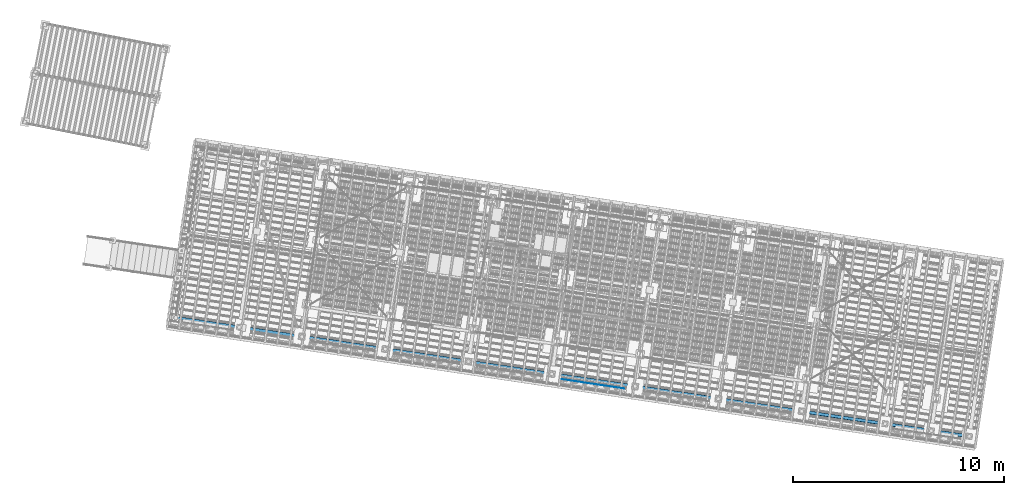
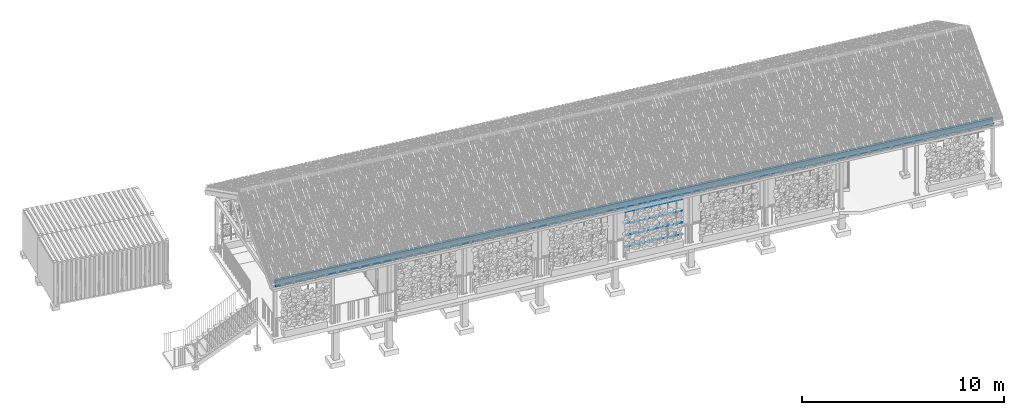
# One storey, part 63 of 131: 5 members, 2 beams, 3 elements without a shape of their own.
"""IFC4 building model written with IfcOpenShell, lengths in metres."""

import ifcopenshell
import ifcopenshell.guid

model = None  # the IFC model being written
_history = None  # IfcOwnerHistory: only IFC2X3 demands one
_inside = {}  # id of a spatial element -> (the spatial element, [elements in it])
_under = {}  # id of a project, library or spatial element -> (it, [spatial elements below it])
_declared = {}  # id of a project -> (the project, [libraries it declares])
_typed = {}  # id of a type object -> (the type object, [elements of that type])
_made_of = {}  # id of a material, layer set ... -> (it, [elements and type objects made of it])


def new_model(schema):
    """Start an empty IFC model of exactly this schema.

    Asked for "IFC4X3", IfcOpenShell would pick the latest addendum, in which some entities
    have other attributes; the version numbers below select the first issue.
    IFC2X3 requires an IfcOwnerHistory on every rooted entity: one is made here for all.
    """
    global model, _history
    if schema == "IFC4X3":
        model = ifcopenshell.file(schema_version=(4, 3, 0, 0))
    else:
        model = ifcopenshell.file(schema=schema)
    _inside.clear()
    _under.clear()
    _declared.clear()
    _typed.clear()
    _made_of.clear()
    _history = None
    if model.schema == "IFC2X3":
        org = make("IfcOrganization", Name="unknown")
        user = make(
            "IfcPersonAndOrganization",
            ThePerson=make("IfcPerson", FamilyName="unknown"),
            TheOrganization=org,
        )
        app = make(
            "IfcApplication",
            ApplicationDeveloper=org,
            Version="unknown",
            ApplicationFullName="unknown",
            ApplicationIdentifier="unknown",
        )
        _history = make(
            "IfcOwnerHistory",
            OwningUser=user,
            OwningApplication=app,
            ChangeAction="ADDED",
            CreationDate=0,
        )
    return model


def make(cls, **values):
    """One entity of the class cls with the attributes given. An attribute that is None is left unset."""
    return model.create_entity(
        cls, **{name: value for name, value in values.items() if value is not None}
    )


def rooted(cls, **values):
    """An entity with a GlobalId (a new one), such as an element, a storey or a relation."""
    return make(cls, GlobalId=ifcopenshell.guid.new(), OwnerHistory=_history, **values)


def si_unit(unit_type, name, prefix=None):
    """IfcSIUnit, for example si_unit("LENGTHUNIT", "METRE", prefix="MILLI")."""
    return make("IfcSIUnit", UnitType=unit_type, Prefix=prefix, Name=name)


def assignment(units):
    """IfcUnitAssignment: the units of a project."""
    return None if units is None else make("IfcUnitAssignment", Units=units)


def point(xyz):
    """IfcCartesianPoint."""
    return None if xyz is None else make("IfcCartesianPoint", Coordinates=xyz)


def direction(xyz):
    """IfcDirection."""
    return None if xyz is None else make("IfcDirection", DirectionRatios=xyz)


def frame(location, z_axis=None, x_axis=None):
    """IfcAxis2Placement3D, a coordinate frame: its origin and axes. An axis left out is left unset."""
    return make(
        "IfcAxis2Placement3D",
        Location=point(location),
        Axis=direction(z_axis),
        RefDirection=direction(x_axis),
    )


def origin_with_axes():
    """The frame at (0, 0, 0) with the z axis (0, 0, 1) and the x axis (1, 0, 0) written out."""
    return frame((0.0, 0.0, 0.0), z_axis=(0.0, 0.0, 1.0), x_axis=(1.0, 0.0, 0.0))


def place(relative_to, where):
    """IfcLocalPlacement: puts the frame where relative to a parent placement (None: the world)."""
    return make(
        "IfcLocalPlacement", PlacementRelTo=relative_to, RelativePlacement=where
    )


def context(
    kind, dimensions, precision=None, world=None, true_north=None, identifier=None
):
    """IfcGeometricRepresentationContext, for example the 3D "Model" context."""
    return make(
        "IfcGeometricRepresentationContext",
        ContextIdentifier=identifier,
        ContextType=kind,
        CoordinateSpaceDimension=dimensions,
        Precision=precision,
        WorldCoordinateSystem=world,
        TrueNorth=true_north,
    )


def subcontext(parent, identifier, kind, view, scale=None):
    """IfcGeometricRepresentationSubContext, for example "Body" below "Model"."""
    return make(
        "IfcGeometricRepresentationSubContext",
        ContextIdentifier=identifier,
        ContextType=kind,
        ParentContext=parent,
        TargetScale=scale,
        TargetView=view,
    )


def project(units=None, contexts=None):
    """IfcProject with its units and contexts."""
    return rooted(
        "IfcProject",
        Name="project",
        RepresentationContexts=contexts,
        UnitsInContext=assignment(units),
    )


def spatial(cls, under=None, at=None, **own):
    """A site, building, storey or space (cls), placed at a placement, below another one or the project."""
    s = rooted(cls, ObjectPlacement=at, **own)
    if under is not None:
        _under.setdefault(under.id(), (under, []))[1].append(s)
    return s


def profile(cls, at=None, kind="AREA", **sizes):
    """A parametric profile (cls). Its sizes go by their IFC names, for example OverallWidth=200.0."""
    return make(cls, ProfileType=kind, Position=at, **sizes)


def rectangle(**sizes):
    """IfcRectangleProfileDef."""
    return profile("IfcRectangleProfileDef", **sizes)


def circle(**sizes):
    """IfcCircleProfileDef."""
    return profile("IfcCircleProfileDef", **sizes)


def extrude(swept, where, along, depth):
    """IfcExtrudedAreaSolid: the profile swept, set in the frame where, extruded along a direction by depth."""
    return make(
        "IfcExtrudedAreaSolid",
        SweptArea=swept,
        Position=where,
        ExtrudedDirection=direction(along),
        Depth=depth,
    )


def shape(context_of_items, identifier, shape_type, items):
    """IfcShapeRepresentation: the items that make up one representation, for example the "Body"."""
    return make(
        "IfcShapeRepresentation",
        ContextOfItems=context_of_items,
        RepresentationIdentifier=identifier,
        RepresentationType=shape_type,
        Items=items,
    )


def material(Name=None, Category=None):
    """IfcMaterial."""
    return make("IfcMaterial", Name=Name, Category=Category)


def material_profile(
    of_material, cross_section, Name=None, Category=None, Priority=None
):
    """IfcMaterialProfile: a cross section and its material."""
    return make(
        "IfcMaterialProfile",
        Name=Name,
        Material=of_material,
        Profile=cross_section,
        Priority=Priority,
        Category=Category,
    )


def profile_set(profiles, Name=None, composite=None):
    """IfcMaterialProfileSet."""
    return make(
        "IfcMaterialProfileSet",
        Name=Name,
        MaterialProfiles=profiles,
        CompositeProfile=composite,
    )


def profile_usage(for_profile_set, cardinal=None, extent=None):
    """IfcMaterialProfileSetUsage: how a profile set lies along its element."""
    return make(
        "IfcMaterialProfileSetUsage",
        ForProfileSet=for_profile_set,
        CardinalPoint=cardinal,
        ReferenceExtent=extent,
    )


def made_of(thing, what):
    """Note that an element or type object is made of a material, layer set ...; save() writes the relation."""
    if what is not None:
        _made_of.setdefault(what.id(), (what, []))[1].append(thing)
    return thing


def type_object(cls, material=None, **own):
    """A type object (cls), such as IfcWallType, which elements share."""
    return made_of(rooted(cls, **own), material)


def element(
    cls,
    number,
    at=None,
    inside=None,
    cuts=None,
    type_object=None,
    material=None,
    context=None,
    identifier="Body",
    shape_type=None,
    held_by="IfcProductDefinitionShape",
    body=None,
    shapes=None,
    **own,
):
    """One element of the class cls, such as IfcWall. Its Tag is "e" and its number.

    at: its placement. inside: the storey or other place that contains it. cuts: it is an
    opening in that element (IfcRelVoidsElement). A single representation is given by context,
    identifier, shape_type and body (its items); several are given by shapes. held_by: the class
    of the entity that holds the representations. save() writes the other relations.
    """
    e = rooted(cls, Tag="e%d" % number, ObjectPlacement=at, **own)
    if body is not None:
        shapes = [shape(context, identifier, shape_type, body)]
    if shapes is not None:
        e.Representation = make(held_by, Representations=shapes)
    if inside is not None:
        _inside.setdefault(inside.id(), (inside, []))[1].append(e)
    if cuts is not None:
        rooted(
            "IfcRelVoidsElement", RelatingBuildingElement=cuts, RelatedOpeningElement=e
        )
    if type_object is not None:
        _typed.setdefault(type_object.id(), (type_object, []))[1].append(e)
    return made_of(e, material)


def aggregate(whole, parts):
    """IfcRelAggregates: a whole, such as a stair, and the parts it consists of."""
    return rooted("IfcRelAggregates", RelatingObject=whole, RelatedObjects=parts)


def save(model, path):
    """Write the relations noted so far, then the file.

    IfcRelAggregates (storeys below a building ...), IfcRelContainedInSpatialStructure (elements
    in a storey), IfcRelDefinesByType, IfcRelAssociatesMaterial and IfcRelDeclares: one each for
    every whole, place, type object, material and project.
    """
    for whole, parts in _under.values():
        aggregate(whole, parts)
    for where, things in _inside.values():
        rooted(
            "IfcRelContainedInSpatialStructure",
            RelatedElements=things,
            RelatingStructure=where,
        )
    for kind, things in _typed.values():
        rooted("IfcRelDefinesByType", RelatedObjects=things, RelatingType=kind)
    for what, things in _made_of.values():
        rooted("IfcRelAssociatesMaterial", RelatedObjects=things, RelatingMaterial=what)
    for by, libraries in _declared.values():
        rooted("IfcRelDeclares", RelatingContext=by, RelatedDefinitions=libraries)
    model.write(path)


model = new_model("IFC4")

# Units and contexts
model_context = context("Model", 3, precision=1e-05, world=origin_with_axes(), true_north=direction((0.0, 1.0)))
body_context = subcontext(model_context, "Body", "Model", "MODEL_VIEW")
ifc_project = project(units=[si_unit("VOLUMEUNIT", "CUBIC_METRE"), si_unit("LENGTHUNIT", "METRE"), si_unit("AREAUNIT", "SQUARE_METRE")], contexts=[model_context])

# Site, building, storey
site_placement = place(None, origin_with_axes())
site = spatial("IfcSite", under=ifc_project, at=site_placement, Name="Lares · Rua das Mercês · artigo 4771")
building_placement = place(site_placement, frame((15.0, 9.7, 14.65), z_axis=(0.0, 0.0, 1.0), x_axis=(0.989015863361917, -0.147809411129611, 0.0)))
building = spatial("IfcBuilding", under=site, at=building_placement, Name="Casa Sobreposta")
storey_placement = place(building_placement, origin_with_axes())
storey = spatial("IfcBuildingStorey", under=building, at=storey_placement, Name="00 · Habitação e estacionamento", Elevation=14.65)

# Assembly, beam
assembly_1_placement = place(storey_placement, origin_with_axes())
assembly_1 = element("IfcElementAssembly", 1, at=assembly_1_placement, inside=storey, Name="Varanda coberta · continuação integral da cobertura", ObjectType="COVERED_PODIUM_BALCONY", PredefinedType="USERDEFINED")
ifc_material_1 = material(Name="Madeira / Bauholz", Category="wood")
ifc_material_profile_1 = material_profile(ifc_material_1, rectangle(XDim=0.16, YDim=0.22))
ifc_profile_set_1 = profile_set([ifc_material_profile_1], Name="TIMBER0.160x0.220")
ifc_profile_usage_1 = profile_usage(ifc_profile_set_1)
beam_type_1 = type_object("IfcBeamType", Name="TIMBER0.160x0.220 / timber", PredefinedType="NOTDEFINED", material=ifc_profile_set_1)
beam_1_placement = place(assembly_1_placement, frame((-6.05, -1.43, 3.0), z_axis=(1.0, 0.0, 0.0), x_axis=(0.0, -1.0, 0.0)))
beam_1 = element("IfcBeam", 2, at=beam_1_placement, type_object=beam_type_1, material=ifc_profile_usage_1, Name="Varanda coberta · frechal", context=body_context, shape_type="SweptSolid", body=[
    extrude(rectangle(XDim=0.16, YDim=0.22), origin_with_axes(), (0.0, 0.0, 1.0), 38.1),
])
aggregate(assembly_1, [beam_1])

# Roof, beam
roof_placement = place(storey_placement, origin_with_axes())
roof = element("IfcRoof", 3, at=roof_placement, inside=storey, material=ifc_material_1, Name="Cobertura de telha · duas águas 30 graus", PredefinedType="GABLE_ROOF")
ifc_material_profile_2 = material_profile(ifc_material_1, rectangle(XDim=0.14, YDim=0.22))
ifc_profile_set_2 = profile_set([ifc_material_profile_2], Name="TIMBER0.140x0.220")
ifc_profile_usage_2 = profile_usage(ifc_profile_set_2)
beam_type_2 = type_object("IfcBeamType", Name="TIMBER0.140x0.220 / timber", PredefinedType="NOTDEFINED", material=ifc_profile_set_2)
beam_2_placement = place(roof_placement, frame((-6.05, -1.43, 3.20135462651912), z_axis=(1.0, 0.0, 0.0), x_axis=(0.0, -1.0, 0.0)))
beam_2 = element("IfcBeam", 4, at=beam_2_placement, type_object=beam_type_2, material=ifc_profile_usage_2, Name="Cobertura · terça", context=body_context, shape_type="SweptSolid", body=[
    extrude(rectangle(XDim=0.14, YDim=0.22), origin_with_axes(), (0.0, 0.0, 1.0), 38.1),
])
aggregate(roof, [beam_2])

# Assembly, members
assembly_2_placement = place(storey_placement, origin_with_axes())
assembly_2 = element("IfcElementAssembly", 5, at=assembly_2_placement, inside=storey, Name="Fachada sul e pátio · estrutura e trepadeiras", ObjectType="LIVING_SHADE_TRELLIS", PredefinedType="USERDEFINED")
ifc_material_2 = material(Name="Aço galvanizado / Stahl verzinkt", Category="steel")
ifc_material_profile_3 = material_profile(ifc_material_2, circle(Radius=0.002))
ifc_profile_set_3 = profile_set([ifc_material_profile_3], Name="D0.004")
ifc_profile_usage_3 = profile_usage(ifc_profile_set_3)
member_type = type_object("IfcMemberType", Name="D0.004 / galvanized", PredefinedType="NOTDEFINED", material=ifc_profile_set_3)
member_1_placement = place(assembly_2_placement, frame((12.5, -1.61, 0.65), z_axis=(1.0, 0.0, 0.0), x_axis=(0.0, -1.0, 0.0)))
member_1 = element("IfcMember", 6, at=member_1_placement, type_object=member_type, material=ifc_profile_usage_3, Name="Trepadeiras · fio horizontal", context=body_context, shape_type="SweptSolid", body=[
    extrude(circle(Radius=0.002), origin_with_axes(), (0.0, 0.0, 1.0), 3.0),
])
ifc_profile_usage_4 = profile_usage(ifc_profile_set_3)
member_2_placement = place(assembly_2_placement, frame((12.5, -1.61, 1.35), z_axis=(1.0, 0.0, 0.0), x_axis=(0.0, -1.0, 0.0)))
member_2 = element("IfcMember", 7, at=member_2_placement, type_object=member_type, material=ifc_profile_usage_4, Name="Trepadeiras · fio horizontal", context=body_context, shape_type="SweptSolid", body=[
    extrude(circle(Radius=0.002), origin_with_axes(), (0.0, 0.0, 1.0), 3.0),
])
ifc_profile_usage_5 = profile_usage(ifc_profile_set_3)
member_3_placement = place(assembly_2_placement, frame((12.5, -1.61, 2.05), z_axis=(1.0, 0.0, 0.0), x_axis=(0.0, -1.0, 0.0)))
member_3 = element("IfcMember", 8, at=member_3_placement, type_object=member_type, material=ifc_profile_usage_5, Name="Trepadeiras · fio horizontal", context=body_context, shape_type="SweptSolid", body=[
    extrude(circle(Radius=0.002), origin_with_axes(), (0.0, 0.0, 1.0), 3.0),
])
ifc_profile_usage_6 = profile_usage(ifc_profile_set_3)
member_4_placement = place(assembly_2_placement, frame((12.5, -1.61, 2.75), z_axis=(1.0, 0.0, 0.0), x_axis=(0.0, -1.0, 0.0)))
member_4 = element("IfcMember", 9, at=member_4_placement, type_object=member_type, material=ifc_profile_usage_6, Name="Trepadeiras · fio horizontal", context=body_context, shape_type="SweptSolid", body=[
    extrude(circle(Radius=0.002), origin_with_axes(), (0.0, 0.0, 1.0), 3.0),
])
ifc_profile_usage_7 = profile_usage(ifc_profile_set_3)
member_5_placement = place(assembly_2_placement, frame((12.5, -1.61, 3.05), z_axis=(1.0, 0.0, 0.0), x_axis=(0.0, -1.0, 0.0)))
member_5 = element("IfcMember", 10, at=member_5_placement, type_object=member_type, material=ifc_profile_usage_7, Name="Trepadeiras · fio horizontal", context=body_context, shape_type="SweptSolid", body=[
    extrude(circle(Radius=0.002), origin_with_axes(), (0.0, 0.0, 1.0), 3.0),
])
aggregate(assembly_2, [member_1, member_2, member_3, member_4, member_5])

save(model, "model.ifc")
